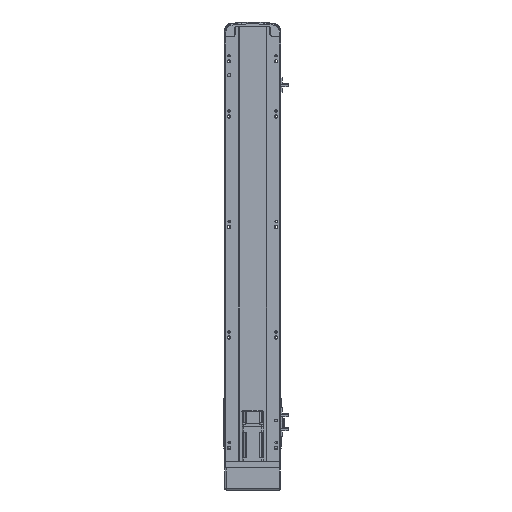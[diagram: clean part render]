
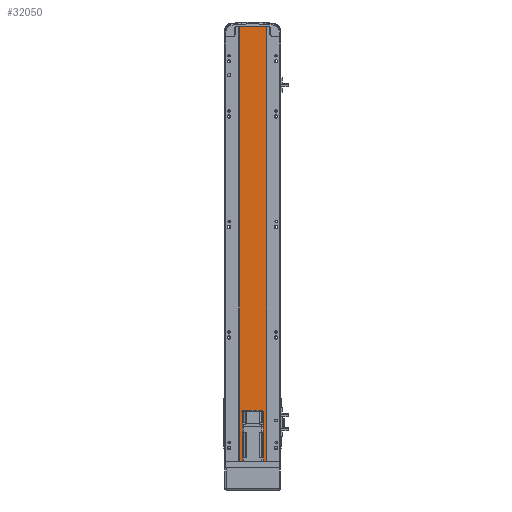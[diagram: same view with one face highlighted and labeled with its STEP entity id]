
A CAD part, front view. The second image highlights one B-rep face of the part: STEP entity #32050.
In plain terms, the highlighted planar face has unit normal (0, -1, 0).
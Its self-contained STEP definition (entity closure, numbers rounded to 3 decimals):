
#1361 = EDGE_CURVE ( 'NONE', #16283, #19387, #30253, .T. ) ;
#2914 = VECTOR ( 'NONE', #30107, 1000. ) ;
#2973 = ORIENTED_EDGE ( 'NONE', *, *, #14036, .T. ) ;
#5240 = ORIENTED_EDGE ( 'NONE', *, *, #1361, .F. ) ;
#9082 = VERTEX_POINT ( 'NONE', #31422 ) ;
#10768 = CARTESIAN_POINT ( 'NONE',  ( 24.5, 2., 0. ) ) ;
#14036 = EDGE_CURVE ( 'NONE', #9082, #39122, #34962, .T. ) ;
#15358 = DIRECTION ( 'NONE',  ( 0., 0., -1. ) ) ;
#16283 = VERTEX_POINT ( 'NONE', #23413 ) ;
#16765 = FACE_OUTER_BOUND ( 'NONE', #28318, .T. ) ;
#18063 = CARTESIAN_POINT ( 'NONE',  ( -24.5, 2., 787. ) ) ;
#19387 = VERTEX_POINT ( 'NONE', #33281 ) ;
#23413 = CARTESIAN_POINT ( 'NONE',  ( -24.5, 2., 787. ) ) ;
#23810 = CARTESIAN_POINT ( 'NONE',  ( 0., 2., 787. ) ) ;
#24068 = DIRECTION ( 'NONE',  ( 1., 0., 0. ) ) ;
#25169 = CARTESIAN_POINT ( 'NONE',  ( 24.5, 2., 787. ) ) ;
#26004 = VECTOR ( 'NONE', #31514, 1000. ) ;
#27541 = LINE ( 'NONE', #42455, #47313 ) ;
#28318 = EDGE_LOOP ( 'NONE', ( #2973, #51808, #5240, #34105 ) ) ;
#28480 = LINE ( 'NONE', #25169, #2914 ) ;
#28561 = DIRECTION ( 'NONE',  ( 0., 1., 0. ) ) ;
#30107 = DIRECTION ( 'NONE',  ( 0., 0., -1. ) ) ;
#30253 = LINE ( 'NONE', #18063, #26004 ) ;
#31422 = CARTESIAN_POINT ( 'NONE',  ( -24.5, 2., 0. ) ) ;
#31514 = DIRECTION ( 'NONE',  ( 1., 0., 0. ) ) ;
#31550 = EDGE_CURVE ( 'NONE', #16283, #9082, #27541, .T. ) ;
#32050 = ADVANCED_FACE ( 'NONE', ( #16765 ), #55648, .F. ) ;
#33281 = CARTESIAN_POINT ( 'NONE',  ( 24.5, 2., 787. ) ) ;
#34105 = ORIENTED_EDGE ( 'NONE', *, *, #31550, .T. ) ;
#34962 = LINE ( 'NONE', #55723, #42717 ) ;
#39122 = VERTEX_POINT ( 'NONE', #10768 ) ;
#42455 = CARTESIAN_POINT ( 'NONE',  ( -24.5, 2., 787. ) ) ;
#42717 = VECTOR ( 'NONE', #24068, 1000. ) ;
#47313 = VECTOR ( 'NONE', #15358, 1000. ) ;
#51808 = ORIENTED_EDGE ( 'NONE', *, *, #57676, .F. ) ;
#53936 = AXIS2_PLACEMENT_3D ( 'NONE', #23810, #28561, #55437 ) ;
#55437 = DIRECTION ( 'NONE',  ( 0., 0., 1. ) ) ;
#55648 = PLANE ( 'NONE',  #53936 ) ;
#55723 = CARTESIAN_POINT ( 'NONE',  ( 0., 2., 0. ) ) ;
#57676 = EDGE_CURVE ( 'NONE', #19387, #39122, #28480, .T. ) ;
